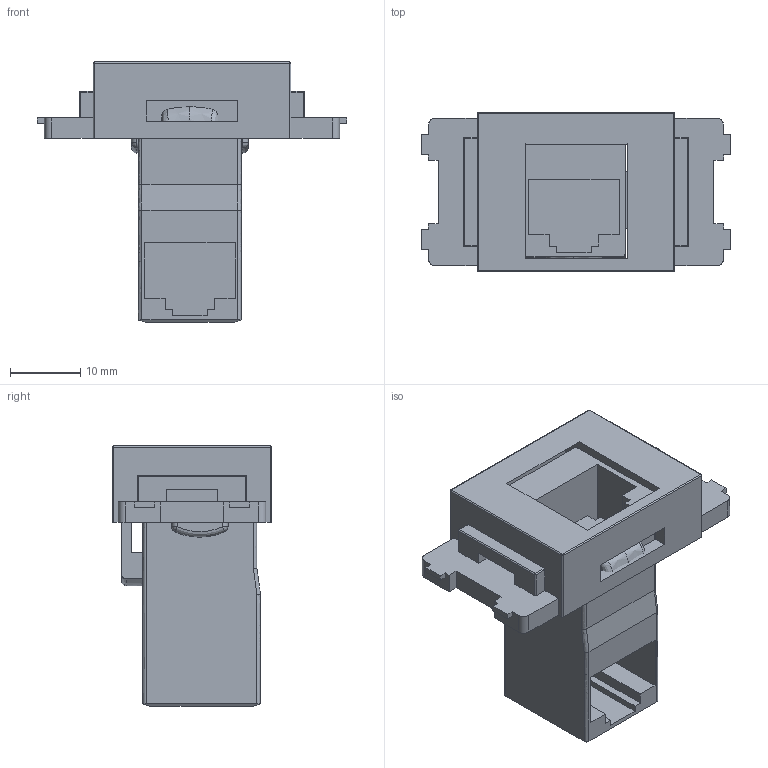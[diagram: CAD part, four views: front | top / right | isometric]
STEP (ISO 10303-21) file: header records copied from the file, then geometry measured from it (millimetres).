
FILE_DESCRIPTION(('FreeCAD Model'),'2;1');
FILE_NAME('Open CASCADE Shape Model','2026-05-12T10:31:27',(''),(''), 'Open CASCADE STEP processor 7.8','FreeCAD','Unknown');
FILE_SCHEMA(('AUTOMOTIVE_DESIGN { 1 0 10303 214 1 1 1 1 }'));
Length unit declared in the file: millimetre
Products named in the file (3): CC_L_C6_WH_KH; SY-NWT-KH-xx; 3013AJUQF6WH
Assembly tree (2 placements, depth 2):
  CC_L_C6_WH_KH
    SY-NWT-KH-xx
    3013AJUQF6WH
Bounding box: 43.95 x 22.65 x 36.95 mm (x, y, z)
Volume: 9753.8 mm3; surface area: 7987.8 mm2
Topology: 2 solids, 2 shells, 211 faces, 577 edges, 372 vertices
Faces by surface type: bspline 211
Entity records: 10111 total; most frequent: CARTESIAN_POINT 6547, ORIENTED_EDGE 1154, EDGE_CURVE 577, B_SPLINE_CURVE_WITH_KNOTS 577, VERTEX_POINT 372, FACE_BOUND 223, EDGE_LOOP 223, ADVANCED_FACE 211
